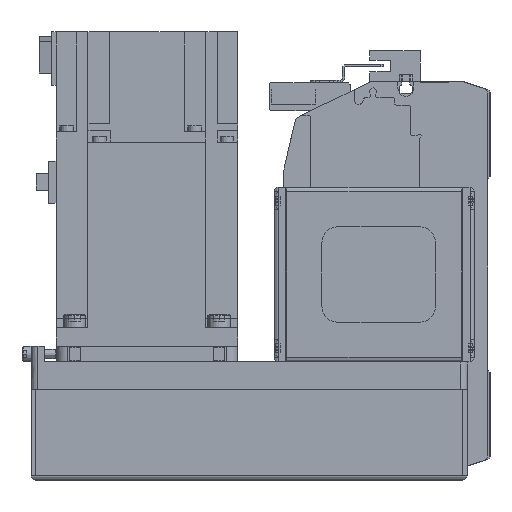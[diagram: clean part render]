
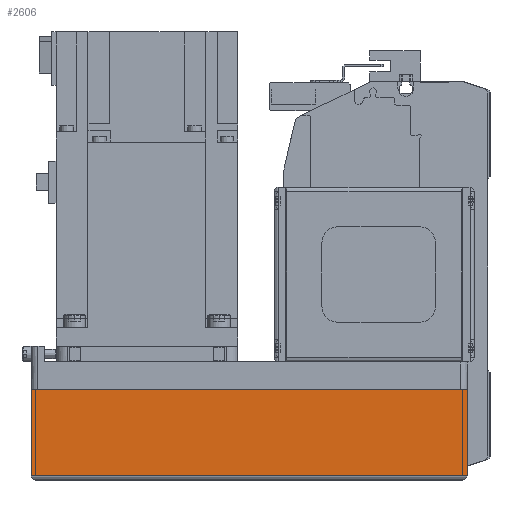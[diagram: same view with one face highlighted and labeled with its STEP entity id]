
A CAD part, left-side view. The second image highlights one B-rep face of the part: STEP entity #2606.
In plain terms, the highlighted planar face has unit normal (-1, 0, 0) as drawn and (0, -1, 0) by its records, which use the part's own axes.
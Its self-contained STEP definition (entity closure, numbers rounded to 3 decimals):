
#2606 = ADVANCED_FACE( '', ( #5860 ), #5861, .T. );
#5860 = FACE_OUTER_BOUND( '', #9788, .T. );
#5861 = PLANE( '', #9789 );
#9788 = EDGE_LOOP( '', ( #17296, #17297, #17298, #17299 ) );
#9789 = AXIS2_PLACEMENT_3D( '', #17300, #17301, #17302 );
#17296 = ORIENTED_EDGE( '', *, *, #21942, .F. );
#17297 = ORIENTED_EDGE( '', *, *, #23262, .F. );
#17298 = ORIENTED_EDGE( '', *, *, #24676, .T. );
#17299 = ORIENTED_EDGE( '', *, *, #23434, .T. );
#17300 = CARTESIAN_POINT( '', ( -192., -40., -12.1 ) );
#17301 = DIRECTION( '', ( 0., -1., 0. ) );
#17302 = DIRECTION( '', ( 0., 0., -1. ) );
#21942 = EDGE_CURVE( '', #26020, #26021, #26022, .T. );
#23262 = EDGE_CURVE( '', #27412, #26020, #28280, .T. );
#23434 = EDGE_CURVE( '', #28220, #26021, #28543, .T. );
#24676 = EDGE_CURVE( '', #27412, #28220, #30377, .T. );
#26020 = VERTEX_POINT( '', #32008 );
#26021 = VERTEX_POINT( '', #32009 );
#26022 = LINE( '', #32010, #32011 );
#27412 = VERTEX_POINT( '', #34082 );
#28220 = VERTEX_POINT( '', #35512 );
#28280 = LINE( '', #35593, #35594 );
#28543 = LINE( '', #35955, #35956 );
#30377 = LINE( '', #38977, #38978 );
#32008 = CARTESIAN_POINT( '', ( 0., -40., -12.1 ) );
#32009 = CARTESIAN_POINT( '', ( 0., -40., -50. ) );
#32010 = CARTESIAN_POINT( '', ( 0., -40., -12.1 ) );
#32011 = VECTOR( '', #41313, 1000. );
#34082 = CARTESIAN_POINT( '', ( -192., -40., -12.1 ) );
#35512 = CARTESIAN_POINT( '', ( -192., -40., -50. ) );
#35593 = CARTESIAN_POINT( '', ( -192., -40., -12.1 ) );
#35594 = VECTOR( '', #43055, 1000. );
#35955 = CARTESIAN_POINT( '', ( -192., -40., -50. ) );
#35956 = VECTOR( '', #43268, 1000. );
#38977 = CARTESIAN_POINT( '', ( -192., -40., -12.1 ) );
#38978 = VECTOR( '', #44742, 1000. );
#41313 = DIRECTION( '', ( 0., 0., -1. ) );
#43055 = DIRECTION( '', ( 1., 0., 0. ) );
#43268 = DIRECTION( '', ( 1., 0., 0. ) );
#44742 = DIRECTION( '', ( 0., 0., -1. ) );
